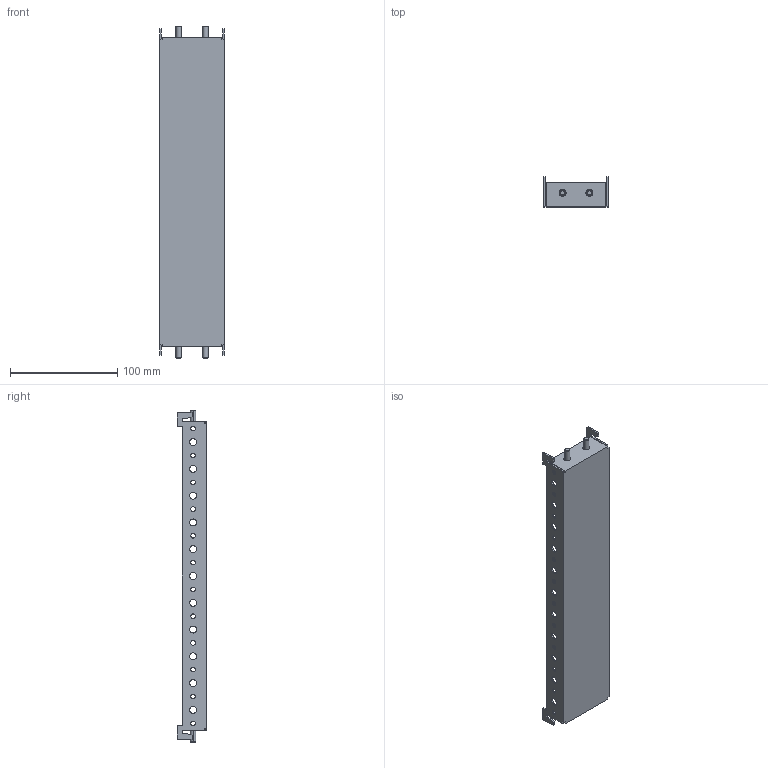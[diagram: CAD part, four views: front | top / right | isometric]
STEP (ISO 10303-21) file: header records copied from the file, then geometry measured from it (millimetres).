
FILE_DESCRIPTION(('Open CASCADE Model'),'2;1');
FILE_NAME('Open CASCADE Shape Model','2025-03-10T09:37:10',('Author'),( 'Open CASCADE'),'Open CASCADE STEP processor 7.8','Open CASCADE 7.8' ,'Unknown');
FILE_SCHEMA(('AUTOMOTIVE_DESIGN { 1 0 10303 214 1 1 1 1 }'));
Length unit declared in the file: millimetre
Products named in the file (3): Compound1; Solid1; Solid2
Assembly tree (5 placements, depth 2):
  Compound1
    Solid1
    Solid2  x4
Bounding box: 60 x 28 x 310 mm (x, y, z)
Volume: 48748.8 mm3; surface area: 67321.6 mm2
Topology: 5 solids, 5 shells, 258 faces, 680 edges, 428 vertices
Faces by surface type: cylinder 116, plane 94, cone 16, torus 16, bspline 8, sphere 8
Entity records: 6574 total; most frequent: CARTESIAN_POINT 1279, DIRECTION 1126, ORIENTED_EDGE 1056, EDGE_CURVE 528, AXIS2_PLACEMENT_3D 418, VERTEX_POINT 347, LINE 290, VECTOR 290
